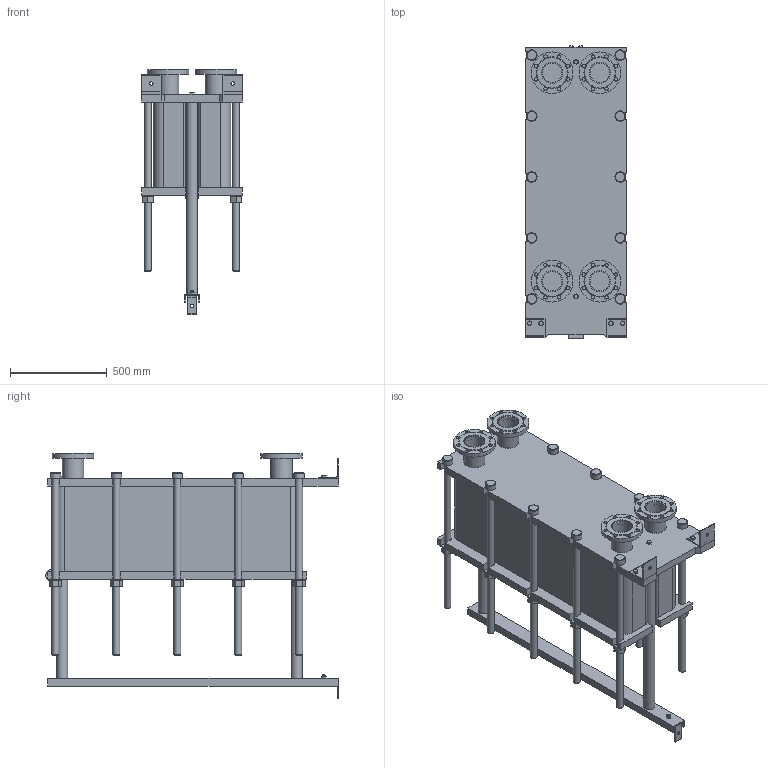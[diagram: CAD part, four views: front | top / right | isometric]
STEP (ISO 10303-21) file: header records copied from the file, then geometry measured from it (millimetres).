
FILE_DESCRIPTION(/* description */ (''),/* implementation_level */ '2;1');
FILE_NAME(/* name */ 'C:\Users\zhuro\Desktop\ENCO\TO\ЭН-04\ЭН-0,5-04-128-1.stp',/* time_stamp */ '2022-06-06T10:56:53+03:00',/* author */ ('zhuro'),/* organization */ (''),/* preprocessor_version */ 'ST-DEVELOPER v18.1',/* originating_system */ 'Autodesk Inventor 2022',/* authorisation */ '');
FILE_SCHEMA (('AUTOMOTIVE_DESIGN { 1 0 10303 214 3 1 1 }'));
Length unit declared in the file: millimetre
Products named in the file (1): ЭН-0,5-04-128-1
Bounding box: 520 x 1510 x 1269 mm (x, y, z)
Volume: 293405413.1 mm3; surface area: 8970984.6 mm2
Topology: 45 solids, 45 shells, 668 faces, 1611 edges, 1048 vertices
Faces by surface type: plane 457, cylinder 166, cone 39, torus 6
Full cylindrical faces by diameter (mm): 8 x4, 10 x2, 16 x8, 18 x35, 36 x25, 40 x2, 42 x1, 45 x4, 54 x10, 57 x2, 60 x10, 68 x2, 100 x4, 110 x8, 215 x4
Entity records: 23607 total; most frequent: CARTESIAN_POINT 7348, DIRECTION 3371, ORIENTED_EDGE 3142, EDGE_CURVE 1571, AXIS2_PLACEMENT_3D 1199, VERTEX_POINT 1044, LINE 973, VECTOR 973
